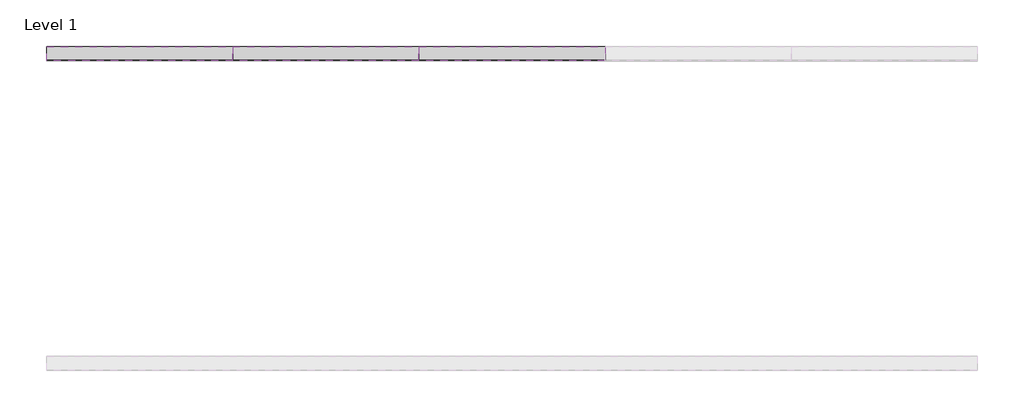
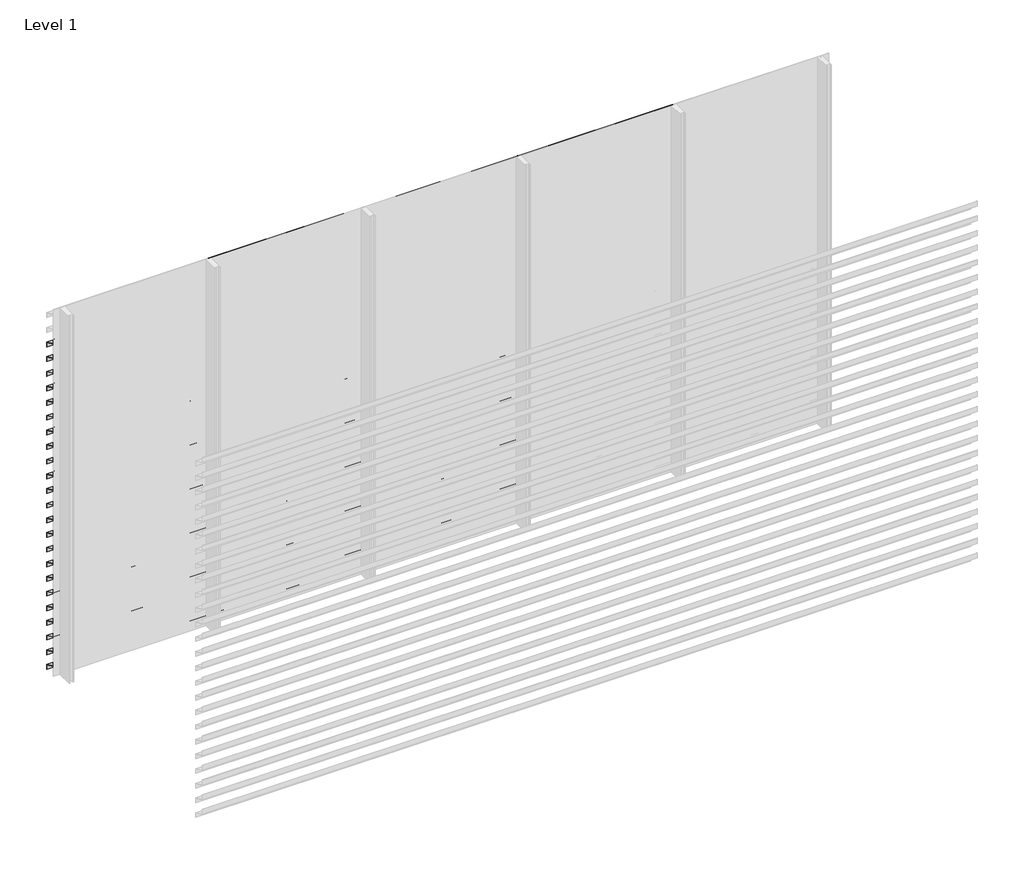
# One storey, part 10 of 46: 85 proxies.
"""IFC4 building model written with IfcOpenShell, lengths in millimetres."""

import ifcopenshell
import ifcopenshell.guid

model = None  # the IFC model being written
_history = None  # IfcOwnerHistory: only IFC2X3 demands one
_inside = {}  # id of a spatial element -> (the spatial element, [elements in it])
_under = {}  # id of a project, library or spatial element -> (it, [spatial elements below it])
_declared = {}  # id of a project -> (the project, [libraries it declares])
_typed = {}  # id of a type object -> (the type object, [elements of that type])
_made_of = {}  # id of a material, layer set ... -> (it, [elements and type objects made of it])


def new_model(schema):
    """Start an empty IFC model of exactly this schema.

    Asked for "IFC4X3", IfcOpenShell would pick the latest addendum, in which some entities
    have other attributes; the version numbers below select the first issue.
    IFC2X3 requires an IfcOwnerHistory on every rooted entity: one is made here for all.
    """
    global model, _history
    if schema == "IFC4X3":
        model = ifcopenshell.file(schema_version=(4, 3, 0, 0))
    else:
        model = ifcopenshell.file(schema=schema)
    _inside.clear()
    _under.clear()
    _declared.clear()
    _typed.clear()
    _made_of.clear()
    _history = None
    if model.schema == "IFC2X3":
        org = make("IfcOrganization", Name="unknown")
        user = make(
            "IfcPersonAndOrganization",
            ThePerson=make("IfcPerson", FamilyName="unknown"),
            TheOrganization=org,
        )
        app = make(
            "IfcApplication",
            ApplicationDeveloper=org,
            Version="unknown",
            ApplicationFullName="unknown",
            ApplicationIdentifier="unknown",
        )
        _history = make(
            "IfcOwnerHistory",
            OwningUser=user,
            OwningApplication=app,
            ChangeAction="ADDED",
            CreationDate=0,
        )
    return model


def make(cls, **values):
    """One entity of the class cls with the attributes given. An attribute that is None is left unset."""
    return model.create_entity(
        cls, **{name: value for name, value in values.items() if value is not None}
    )


def rooted(cls, **values):
    """An entity with a GlobalId (a new one), such as an element, a storey or a relation."""
    return make(cls, GlobalId=ifcopenshell.guid.new(), OwnerHistory=_history, **values)


def si_unit(unit_type, name, prefix=None):
    """IfcSIUnit, for example si_unit("LENGTHUNIT", "METRE", prefix="MILLI")."""
    return make("IfcSIUnit", UnitType=unit_type, Prefix=prefix, Name=name)


def assignment(units):
    """IfcUnitAssignment: the units of a project."""
    return None if units is None else make("IfcUnitAssignment", Units=units)


def point(xyz):
    """IfcCartesianPoint."""
    return None if xyz is None else make("IfcCartesianPoint", Coordinates=xyz)


def direction(xyz):
    """IfcDirection."""
    return None if xyz is None else make("IfcDirection", DirectionRatios=xyz)


def frame(location, z_axis=None, x_axis=None):
    """IfcAxis2Placement3D, a coordinate frame: its origin and axes. An axis left out is left unset."""
    return make(
        "IfcAxis2Placement3D",
        Location=point(location),
        Axis=direction(z_axis),
        RefDirection=direction(x_axis),
    )


def origin():
    """The frame at (0, 0, 0) with its axes left unset."""
    return frame((0.0, 0.0, 0.0))


def place(relative_to, where):
    """IfcLocalPlacement: puts the frame where relative to a parent placement (None: the world)."""
    return make(
        "IfcLocalPlacement", PlacementRelTo=relative_to, RelativePlacement=where
    )


def context(
    kind, dimensions, precision=None, world=None, true_north=None, identifier=None
):
    """IfcGeometricRepresentationContext, for example the 3D "Model" context."""
    return make(
        "IfcGeometricRepresentationContext",
        ContextIdentifier=identifier,
        ContextType=kind,
        CoordinateSpaceDimension=dimensions,
        Precision=precision,
        WorldCoordinateSystem=world,
        TrueNorth=true_north,
    )


def project(units=None, contexts=None):
    """IfcProject with its units and contexts."""
    return rooted(
        "IfcProject",
        Name="project",
        RepresentationContexts=contexts,
        UnitsInContext=assignment(units),
    )


def spatial(cls, under=None, at=None, **own):
    """A site, building, storey or space (cls), placed at a placement, below another one or the project."""
    s = rooted(cls, ObjectPlacement=at, **own)
    if under is not None:
        _under.setdefault(under.id(), (under, []))[1].append(s)
    return s


def polyline(points):
    """IfcPolyline through the points."""
    return make("IfcPolyline", Points=[point(p) for p in points])


def outline(outer, holes=None, kind="AREA"):
    """IfcArbitraryClosedProfileDef: a profile drawn as a closed curve; with holes, ...WithVoids."""
    if holes is None:
        return make("IfcArbitraryClosedProfileDef", ProfileType=kind, OuterCurve=outer)
    return make(
        "IfcArbitraryProfileDefWithVoids",
        ProfileType=kind,
        OuterCurve=outer,
        InnerCurves=holes,
    )


def extrude(swept, where, along, depth):
    """IfcExtrudedAreaSolid: the profile swept, set in the frame where, extruded along a direction by depth."""
    return make(
        "IfcExtrudedAreaSolid",
        SweptArea=swept,
        Position=where,
        ExtrudedDirection=direction(along),
        Depth=depth,
    )


def shape(context_of_items, identifier, shape_type, items):
    """IfcShapeRepresentation: the items that make up one representation, for example the "Body"."""
    return make(
        "IfcShapeRepresentation",
        ContextOfItems=context_of_items,
        RepresentationIdentifier=identifier,
        RepresentationType=shape_type,
        Items=items,
    )


def made_of(thing, what):
    """Note that an element or type object is made of a material, layer set ...; save() writes the relation."""
    if what is not None:
        _made_of.setdefault(what.id(), (what, []))[1].append(thing)
    return thing


def element(
    cls,
    number,
    at=None,
    inside=None,
    cuts=None,
    type_object=None,
    material=None,
    context=None,
    identifier="Body",
    shape_type=None,
    held_by="IfcProductDefinitionShape",
    body=None,
    shapes=None,
    **own,
):
    """One element of the class cls, such as IfcWall. Its Tag is "e" and its number.

    at: its placement. inside: the storey or other place that contains it. cuts: it is an
    opening in that element (IfcRelVoidsElement). A single representation is given by context,
    identifier, shape_type and body (its items); several are given by shapes. held_by: the class
    of the entity that holds the representations. save() writes the other relations.
    """
    e = rooted(cls, Tag="e%d" % number, ObjectPlacement=at, **own)
    if body is not None:
        shapes = [shape(context, identifier, shape_type, body)]
    if shapes is not None:
        e.Representation = make(held_by, Representations=shapes)
    if inside is not None:
        _inside.setdefault(inside.id(), (inside, []))[1].append(e)
    if cuts is not None:
        rooted(
            "IfcRelVoidsElement", RelatingBuildingElement=cuts, RelatedOpeningElement=e
        )
    if type_object is not None:
        _typed.setdefault(type_object.id(), (type_object, []))[1].append(e)
    return made_of(e, material)


def aggregate(whole, parts):
    """IfcRelAggregates: a whole, such as a stair, and the parts it consists of."""
    return rooted("IfcRelAggregates", RelatingObject=whole, RelatedObjects=parts)


def save(model, path):
    """Write the relations noted so far, then the file.

    IfcRelAggregates (storeys below a building ...), IfcRelContainedInSpatialStructure (elements
    in a storey), IfcRelDefinesByType, IfcRelAssociatesMaterial and IfcRelDeclares: one each for
    every whole, place, type object, material and project.
    """
    for whole, parts in _under.values():
        aggregate(whole, parts)
    for where, things in _inside.values():
        rooted(
            "IfcRelContainedInSpatialStructure",
            RelatedElements=things,
            RelatingStructure=where,
        )
    for kind, things in _typed.values():
        rooted("IfcRelDefinesByType", RelatedObjects=things, RelatingType=kind)
    for what, things in _made_of.values():
        rooted("IfcRelAssociatesMaterial", RelatedObjects=things, RelatingMaterial=what)
    for by, libraries in _declared.values():
        rooted("IfcRelDeclares", RelatingContext=by, RelatedDefinitions=libraries)
    model.write(path)


model = new_model("IFC4")

# Units and contexts
model_context = context("Model", 3, world=origin())
ifc_project = project(units=[si_unit("LENGTHUNIT", "METRE", prefix="MILLI")], contexts=[model_context])

# Site, building, storey
site = spatial("IfcSite", under=ifc_project)
building = spatial("IfcBuilding", under=site)
storey = spatial("IfcBuildingStorey", under=building, Name="Level 1", Elevation=0.0)

# Proxies
placement = place(None, origin())
element("IfcBuildingElementProxy", 1, Name="Wall Sweeps", at=placement, inside=storey, context=model_context, shape_type="SweptSolid", body=[
    extrude(outline(polyline([(14073.0540136, 2680.0), (14073.0540136, 2640.0), (14071.0540136, 2641.349017), (14071.0540136, 2678.7258595), (13983.0540136, 2719.7609334), (13983.0540136, 2760.0), (13985.0540136, 2760.0), (13985.0540136, 2721.0350739), (14073.0540136, 2680.0)])), frame((466.6208097, 0.0, 0.0), z_axis=(1.0, 0.0, 0.0), x_axis=(0.0, 1.0, 0.0)), (0.0, 0.0, 1.0), 1200.0000002),
])
element("IfcBuildingElementProxy", 2, Name="Wall Sweeps", at=placement, inside=storey, context=model_context, shape_type="SweptSolid", body=[
    extrude(outline(polyline([(14073.0540136, 2560.0), (14073.0540136, 2520.0), (14071.0540136, 2521.349017), (14071.0540136, 2558.7258595), (13983.0540136, 2599.7609334), (13983.0540136, 2640.0), (13985.0540136, 2640.0), (13985.0540136, 2601.0350739), (14073.0540136, 2560.0)])), frame((466.6208097, 0.0, 0.0), z_axis=(1.0, 0.0, 0.0), x_axis=(0.0, 1.0, 0.0)), (0.0, 0.0, 1.0), 1200.0000002),
])
element("IfcBuildingElementProxy", 3, Name="Wall Sweeps", at=placement, inside=storey, context=model_context, shape_type="SweptSolid", body=[
    extrude(outline(polyline([(14073.0540136, 2440.0), (14073.0540136, 2400.0), (14071.0540136, 2401.349017), (14071.0540136, 2438.7258595), (13983.0540136, 2479.7609334), (13983.0540136, 2520.0), (13985.0540136, 2520.0), (13985.0540136, 2481.0350739), (14073.0540136, 2440.0)])), frame((466.6208097, 0.0, 0.0), z_axis=(1.0, 0.0, 0.0), x_axis=(0.0, 1.0, 0.0)), (0.0, 0.0, 1.0), 1200.0000002),
])
element("IfcBuildingElementProxy", 4, Name="Wall Sweeps", at=placement, inside=storey, context=model_context, shape_type="SweptSolid", body=[
    extrude(outline(polyline([(14073.0540136, 2320.0), (14073.0540136, 2280.0), (14071.0540136, 2281.349017), (14071.0540136, 2318.7258595), (13983.0540136, 2359.7609334), (13983.0540136, 2400.0), (13985.0540136, 2400.0), (13985.0540136, 2361.0350739), (14073.0540136, 2320.0)])), frame((466.6208097, 0.0, 0.0), z_axis=(1.0, 0.0, 0.0), x_axis=(0.0, 1.0, 0.0)), (0.0, 0.0, 1.0), 1200.0000002),
])
element("IfcBuildingElementProxy", 5, Name="Wall Sweeps", at=placement, inside=storey, context=model_context, shape_type="SweptSolid", body=[
    extrude(outline(polyline([(14073.0540136, 2200.0), (14073.0540136, 2160.0), (14071.0540136, 2161.349017), (14071.0540136, 2198.7258595), (13983.0540136, 2239.7609334), (13983.0540136, 2280.0), (13985.0540136, 2280.0), (13985.0540136, 2241.0350739), (14073.0540136, 2200.0)])), frame((466.6208097, 0.0, 0.0), z_axis=(1.0, 0.0, 0.0), x_axis=(0.0, 1.0, 0.0)), (0.0, 0.0, 1.0), 1200.0000002),
])
element("IfcBuildingElementProxy", 6, Name="Wall Sweeps", at=placement, inside=storey, context=model_context, shape_type="SweptSolid", body=[
    extrude(outline(polyline([(14073.0540136, 2080.0), (14073.0540136, 2040.0), (14071.0540136, 2041.349017), (14071.0540136, 2078.7258595), (13983.0540136, 2119.7609334), (13983.0540136, 2160.0), (13985.0540136, 2160.0), (13985.0540136, 2121.0350739), (14073.0540136, 2080.0)])), frame((466.6208097, 0.0, 0.0), z_axis=(1.0, 0.0, 0.0), x_axis=(0.0, 1.0, 0.0)), (0.0, 0.0, 1.0), 1200.0000002),
])
element("IfcBuildingElementProxy", 7, Name="Wall Sweeps", at=placement, inside=storey, context=model_context, shape_type="SweptSolid", body=[
    extrude(outline(polyline([(14073.0540136, 1960.0), (14073.0540136, 1920.0), (14071.0540136, 1921.349017), (14071.0540136, 1958.7258595), (13983.0540136, 1999.7609334), (13983.0540136, 2040.0), (13985.0540136, 2040.0), (13985.0540136, 2001.0350739), (14073.0540136, 1960.0)])), frame((466.6208097, 0.0, 0.0), z_axis=(1.0, 0.0, 0.0), x_axis=(0.0, 1.0, 0.0)), (0.0, 0.0, 1.0), 1200.0000002),
])
element("IfcBuildingElementProxy", 8, Name="Wall Sweeps", at=placement, inside=storey, context=model_context, shape_type="SweptSolid", body=[
    extrude(outline(polyline([(14073.0540136, 1840.0), (14073.0540136, 1800.0), (14071.0540136, 1801.349017), (14071.0540136, 1838.7258595), (13983.0540136, 1879.7609334), (13983.0540136, 1920.0), (13985.0540136, 1920.0), (13985.0540136, 1881.0350739), (14073.0540136, 1840.0)])), frame((466.6208097, 0.0, 0.0), z_axis=(1.0, 0.0, 0.0), x_axis=(0.0, 1.0, 0.0)), (0.0, 0.0, 1.0), 1200.0000002),
])
element("IfcBuildingElementProxy", 9, Name="Wall Sweeps", at=placement, inside=storey, context=model_context, shape_type="SweptSolid", body=[
    extrude(outline(polyline([(14073.0540136, 1720.0), (14073.0540136, 1680.0), (14071.0540136, 1681.349017), (14071.0540136, 1718.7258595), (13983.0540136, 1759.7609334), (13983.0540136, 1800.0), (13985.0540136, 1800.0), (13985.0540136, 1761.0350739), (14073.0540136, 1720.0)])), frame((466.6208097, 0.0, 0.0), z_axis=(1.0, 0.0, 0.0), x_axis=(0.0, 1.0, 0.0)), (0.0, 0.0, 1.0), 1200.0000002),
])
element("IfcBuildingElementProxy", 10, Name="Wall Sweeps", at=placement, inside=storey, context=model_context, shape_type="SweptSolid", body=[
    extrude(outline(polyline([(14073.0540136, 1600.0), (14073.0540136, 1560.0), (14071.0540136, 1561.349017), (14071.0540136, 1598.7258595), (13983.0540136, 1639.7609334), (13983.0540136, 1680.0), (13985.0540136, 1680.0), (13985.0540136, 1641.0350739), (14073.0540136, 1600.0)])), frame((466.6208097, 0.0, 0.0), z_axis=(1.0, 0.0, 0.0), x_axis=(0.0, 1.0, 0.0)), (0.0, 0.0, 1.0), 1200.0000002),
])
element("IfcBuildingElementProxy", 11, Name="Wall Sweeps", at=placement, inside=storey, context=model_context, shape_type="SweptSolid", body=[
    extrude(outline(polyline([(14073.0540136, 1480.0), (14073.0540136, 1440.0), (14071.0540136, 1441.349017), (14071.0540136, 1478.7258595), (13983.0540136, 1519.7609334), (13983.0540136, 1560.0), (13985.0540136, 1560.0), (13985.0540136, 1521.0350739), (14073.0540136, 1480.0)])), frame((466.6208097, 0.0, 0.0), z_axis=(1.0, 0.0, 0.0), x_axis=(0.0, 1.0, 0.0)), (0.0, 0.0, 1.0), 1200.0000002),
])
element("IfcBuildingElementProxy", 12, Name="Wall Sweeps", at=placement, inside=storey, context=model_context, shape_type="SweptSolid", body=[
    extrude(outline(polyline([(14073.0540136, 1360.0), (14073.0540136, 1320.0), (14071.0540136, 1321.349017), (14071.0540136, 1358.7258595), (13983.0540136, 1399.7609334), (13983.0540136, 1440.0), (13985.0540136, 1440.0), (13985.0540136, 1401.0350739), (14073.0540136, 1360.0)])), frame((466.6208097, 0.0, 0.0), z_axis=(1.0, 0.0, 0.0), x_axis=(0.0, 1.0, 0.0)), (0.0, 0.0, 1.0), 1200.0000002),
])
element("IfcBuildingElementProxy", 13, Name="Wall Sweeps", at=placement, inside=storey, context=model_context, shape_type="SweptSolid", body=[
    extrude(outline(polyline([(14073.0540136, 1240.0), (14073.0540136, 1200.0), (14071.0540136, 1201.349017), (14071.0540136, 1238.7258595), (13983.0540136, 1279.7609334), (13983.0540136, 1320.0), (13985.0540136, 1320.0), (13985.0540136, 1281.0350739), (14073.0540136, 1240.0)])), frame((466.6208097, 0.0, 0.0), z_axis=(1.0, 0.0, 0.0), x_axis=(0.0, 1.0, 0.0)), (0.0, 0.0, 1.0), 1200.0000002),
])
element("IfcBuildingElementProxy", 14, Name="Wall Sweeps", at=placement, inside=storey, context=model_context, shape_type="SweptSolid", body=[
    extrude(outline(polyline([(14073.0540136, 1120.0), (14073.0540136, 1080.0), (14071.0540136, 1081.349017), (14071.0540136, 1118.7258595), (13983.0540136, 1159.7609334), (13983.0540136, 1200.0), (13985.0540136, 1200.0), (13985.0540136, 1161.0350739), (14073.0540136, 1120.0)])), frame((466.6208097, 0.0, 0.0), z_axis=(1.0, 0.0, 0.0), x_axis=(0.0, 1.0, 0.0)), (0.0, 0.0, 1.0), 1200.0000002),
])
element("IfcBuildingElementProxy", 15, Name="Wall Sweeps", at=placement, inside=storey, context=model_context, shape_type="SweptSolid", body=[
    extrude(outline(polyline([(14073.0540136, 1000.0), (14073.0540136, 960.0), (14071.0540136, 961.349017), (14071.0540136, 998.7258595), (13983.0540136, 1039.7609334), (13983.0540136, 1080.0), (13985.0540136, 1080.0), (13985.0540136, 1041.0350739), (14073.0540136, 1000.0)])), frame((466.6208097, 0.0, 0.0), z_axis=(1.0, 0.0, 0.0), x_axis=(0.0, 1.0, 0.0)), (0.0, 0.0, 1.0), 1200.0000002),
])
element("IfcBuildingElementProxy", 16, Name="Wall Sweeps", at=placement, inside=storey, context=model_context, shape_type="SweptSolid", body=[
    extrude(outline(polyline([(14073.0540136, 880.0), (14073.0540136, 840.0), (14071.0540136, 841.349017), (14071.0540136, 878.7258595), (13983.0540136, 919.7609334), (13983.0540136, 960.0), (13985.0540136, 960.0), (13985.0540136, 921.0350739), (14073.0540136, 880.0)])), frame((466.6208097, 0.0, 0.0), z_axis=(1.0, 0.0, 0.0), x_axis=(0.0, 1.0, 0.0)), (0.0, 0.0, 1.0), 1200.0000002),
])
element("IfcBuildingElementProxy", 17, Name="Wall Sweeps", at=placement, inside=storey, context=model_context, shape_type="SweptSolid", body=[
    extrude(outline(polyline([(14073.0540136, 760.0), (14073.0540136, 720.0), (14071.0540136, 721.349017), (14071.0540136, 758.7258595), (13983.0540136, 799.7609334), (13983.0540136, 840.0), (13985.0540136, 840.0), (13985.0540136, 801.0350739), (14073.0540136, 760.0)])), frame((466.6208097, 0.0, 0.0), z_axis=(1.0, 0.0, 0.0), x_axis=(0.0, 1.0, 0.0)), (0.0, 0.0, 1.0), 1200.0000002),
])
element("IfcBuildingElementProxy", 18, Name="Wall Sweeps", at=placement, inside=storey, context=model_context, shape_type="SweptSolid", body=[
    extrude(outline(polyline([(14073.0540136, 640.0), (14073.0540136, 600.0), (14071.0540136, 601.349017), (14071.0540136, 638.7258595), (13983.0540136, 679.7609334), (13983.0540136, 720.0), (13985.0540136, 720.0), (13985.0540136, 681.0350739), (14073.0540136, 640.0)])), frame((466.6208097, 0.0, 0.0), z_axis=(1.0, 0.0, 0.0), x_axis=(0.0, 1.0, 0.0)), (0.0, 0.0, 1.0), 1200.0000002),
])
element("IfcBuildingElementProxy", 19, Name="Wall Sweeps", at=placement, inside=storey, context=model_context, shape_type="SweptSolid", body=[
    extrude(outline(polyline([(14073.0540136, 520.0), (14073.0540136, 480.0), (14071.0540136, 481.349017), (14071.0540136, 518.7258595), (13983.0540136, 559.7609334), (13983.0540136, 600.0), (13985.0540136, 600.0), (13985.0540136, 561.0350739), (14073.0540136, 520.0)])), frame((466.6208097, 0.0, 0.0), z_axis=(1.0, 0.0, 0.0), x_axis=(0.0, 1.0, 0.0)), (0.0, 0.0, 1.0), 1200.0000002),
])
element("IfcBuildingElementProxy", 20, Name="Wall Sweeps", at=placement, inside=storey, context=model_context, shape_type="SweptSolid", body=[
    extrude(outline(polyline([(14073.0540136, 400.0), (14073.0540136, 360.0), (14071.0540136, 361.349017), (14071.0540136, 398.7258595), (13983.0540136, 439.7609334), (13983.0540136, 480.0), (13985.0540136, 480.0), (13985.0540136, 441.0350739), (14073.0540136, 400.0)])), frame((466.6208097, 0.0, 0.0), z_axis=(1.0, 0.0, 0.0), x_axis=(0.0, 1.0, 0.0)), (0.0, 0.0, 1.0), 1200.0000002),
])
element("IfcBuildingElementProxy", 21, Name="Wall Sweeps", at=placement, inside=storey, context=model_context, shape_type="SweptSolid", body=[
    extrude(outline(polyline([(14073.0540136, 280.0), (14073.0540136, 240.0), (14071.0540136, 241.349017), (14071.0540136, 278.7258595), (13983.0540136, 319.7609334), (13983.0540136, 360.0), (13985.0540136, 360.0), (13985.0540136, 321.0350739), (14073.0540136, 280.0)])), frame((466.6208097, 0.0, 0.0), z_axis=(1.0, 0.0, 0.0), x_axis=(0.0, 1.0, 0.0)), (0.0, 0.0, 1.0), 1200.0000002),
])
element("IfcBuildingElementProxy", 22, Name="Wall Sweeps", at=placement, inside=storey, context=model_context, shape_type="SweptSolid", body=[
    extrude(outline(polyline([(14073.0540136, 160.0), (14073.0540136, 120.0), (14071.0540136, 121.349017), (14071.0540136, 158.7258595), (13983.0540136, 199.7609334), (13983.0540136, 240.0), (13985.0540136, 240.0), (13985.0540136, 201.0350739), (14073.0540136, 160.0)])), frame((466.6208097, 0.0, 0.0), z_axis=(1.0, 0.0, 0.0), x_axis=(0.0, 1.0, 0.0)), (0.0, 0.0, 1.0), 1200.0000002),
])
element("IfcBuildingElementProxy", 23, Name="Wall Sweeps", at=placement, inside=storey, context=model_context, shape_type="SweptSolid", body=[
    extrude(outline(polyline([(14073.0540136, 40.0), (14073.0540136, 0.0), (14071.0540136, 1.349017), (14071.0540136, 38.7258595), (13983.0540136, 79.7609334), (13983.0540136, 120.0), (13985.0540136, 120.0), (13985.0540136, 81.0350739), (14073.0540136, 40.0)])), frame((466.6208097, 0.0, 0.0), z_axis=(1.0, 0.0, 0.0), x_axis=(0.0, 1.0, 0.0)), (0.0, 0.0, 1.0), 1200.0000002),
])
element("IfcBuildingElementProxy", 24, Name="Wall Sweeps", at=placement, inside=storey, context=model_context, shape_type="SweptSolid", body=[
    extrude(outline(polyline([(14073.0540136, 2920.0), (14073.0540136, 2880.0), (14071.0540136, 2881.349017), (14071.0540136, 2918.7258595), (13983.0540136, 2959.7609334), (13983.0540136, 3000.0), (13985.0540136, 3000.0), (13985.0540136, 2961.0350739), (14073.0540136, 2920.0)])), frame((1666.6208099, 0.0, 0.0), z_axis=(1.0, 0.0, 0.0), x_axis=(0.0, 1.0, 0.0)), (0.0, 0.0, 1.0), 1199.9999999),
])
element("IfcBuildingElementProxy", 25, Name="Wall Sweeps", at=placement, inside=storey, context=model_context, shape_type="SweptSolid", body=[
    extrude(outline(polyline([(14073.0540136, 2800.0), (14073.0540136, 2760.0), (14071.0540136, 2761.349017), (14071.0540136, 2798.7258595), (13983.0540136, 2839.7609334), (13983.0540136, 2880.0), (13985.0540136, 2880.0), (13985.0540136, 2841.0350739), (14073.0540136, 2800.0)])), frame((1666.6208099, 0.0, 0.0), z_axis=(1.0, 0.0, 0.0), x_axis=(0.0, 1.0, 0.0)), (0.0, 0.0, 1.0), 1199.9999999),
])
element("IfcBuildingElementProxy", 26, Name="Wall Sweeps", at=placement, inside=storey, context=model_context, shape_type="SweptSolid", body=[
    extrude(outline(polyline([(14073.0540136, 2680.0), (14073.0540136, 2640.0), (14071.0540136, 2641.349017), (14071.0540136, 2678.7258595), (13983.0540136, 2719.7609334), (13983.0540136, 2760.0), (13985.0540136, 2760.0), (13985.0540136, 2721.0350739), (14073.0540136, 2680.0)])), frame((1666.6208099, 0.0, 0.0), z_axis=(1.0, 0.0, 0.0), x_axis=(0.0, 1.0, 0.0)), (0.0, 0.0, 1.0), 1199.9999999),
])
element("IfcBuildingElementProxy", 27, Name="Wall Sweeps", at=placement, inside=storey, context=model_context, shape_type="SweptSolid", body=[
    extrude(outline(polyline([(14073.0540136, 2560.0), (14073.0540136, 2520.0), (14071.0540136, 2521.349017), (14071.0540136, 2558.7258595), (13983.0540136, 2599.7609334), (13983.0540136, 2640.0), (13985.0540136, 2640.0), (13985.0540136, 2601.0350739), (14073.0540136, 2560.0)])), frame((1666.6208099, 0.0, 0.0), z_axis=(1.0, 0.0, 0.0), x_axis=(0.0, 1.0, 0.0)), (0.0, 0.0, 1.0), 1199.9999999),
])
element("IfcBuildingElementProxy", 28, Name="Wall Sweeps", at=placement, inside=storey, context=model_context, shape_type="SweptSolid", body=[
    extrude(outline(polyline([(14073.0540136, 2440.0), (14073.0540136, 2400.0), (14071.0540136, 2401.349017), (14071.0540136, 2438.7258595), (13983.0540136, 2479.7609334), (13983.0540136, 2520.0), (13985.0540136, 2520.0), (13985.0540136, 2481.0350739), (14073.0540136, 2440.0)])), frame((1666.6208099, 0.0, 0.0), z_axis=(1.0, 0.0, 0.0), x_axis=(0.0, 1.0, 0.0)), (0.0, 0.0, 1.0), 1199.9999999),
])
element("IfcBuildingElementProxy", 29, Name="Wall Sweeps", at=placement, inside=storey, context=model_context, shape_type="SweptSolid", body=[
    extrude(outline(polyline([(14073.0540136, 2320.0), (14073.0540136, 2280.0), (14071.0540136, 2281.349017), (14071.0540136, 2318.7258595), (13983.0540136, 2359.7609334), (13983.0540136, 2400.0), (13985.0540136, 2400.0), (13985.0540136, 2361.0350739), (14073.0540136, 2320.0)])), frame((1666.6208099, 0.0, 0.0), z_axis=(1.0, 0.0, 0.0), x_axis=(0.0, 1.0, 0.0)), (0.0, 0.0, 1.0), 1199.9999999),
])
element("IfcBuildingElementProxy", 30, Name="Wall Sweeps", at=placement, inside=storey, context=model_context, shape_type="SweptSolid", body=[
    extrude(outline(polyline([(14073.0540136, 2200.0), (14073.0540136, 2160.0), (14071.0540136, 2161.349017), (14071.0540136, 2198.7258595), (13983.0540136, 2239.7609334), (13983.0540136, 2280.0), (13985.0540136, 2280.0), (13985.0540136, 2241.0350739), (14073.0540136, 2200.0)])), frame((1666.6208099, 0.0, 0.0), z_axis=(1.0, 0.0, 0.0), x_axis=(0.0, 1.0, 0.0)), (0.0, 0.0, 1.0), 1199.9999999),
])
element("IfcBuildingElementProxy", 31, Name="Wall Sweeps", at=placement, inside=storey, context=model_context, shape_type="SweptSolid", body=[
    extrude(outline(polyline([(14073.0540136, 2080.0), (14073.0540136, 2040.0), (14071.0540136, 2041.349017), (14071.0540136, 2078.7258595), (13983.0540136, 2119.7609334), (13983.0540136, 2160.0), (13985.0540136, 2160.0), (13985.0540136, 2121.0350739), (14073.0540136, 2080.0)])), frame((1666.6208099, 0.0, 0.0), z_axis=(1.0, 0.0, 0.0), x_axis=(0.0, 1.0, 0.0)), (0.0, 0.0, 1.0), 1199.9999999),
])
element("IfcBuildingElementProxy", 32, Name="Wall Sweeps", at=placement, inside=storey, context=model_context, shape_type="SweptSolid", body=[
    extrude(outline(polyline([(14073.0540136, 1960.0), (14073.0540136, 1920.0), (14071.0540136, 1921.349017), (14071.0540136, 1958.7258595), (13983.0540136, 1999.7609334), (13983.0540136, 2040.0), (13985.0540136, 2040.0), (13985.0540136, 2001.0350739), (14073.0540136, 1960.0)])), frame((1666.6208099, 0.0, 0.0), z_axis=(1.0, 0.0, 0.0), x_axis=(0.0, 1.0, 0.0)), (0.0, 0.0, 1.0), 1199.9999999),
])
element("IfcBuildingElementProxy", 33, Name="Wall Sweeps", at=placement, inside=storey, context=model_context, shape_type="SweptSolid", body=[
    extrude(outline(polyline([(14073.0540136, 1840.0), (14073.0540136, 1800.0), (14071.0540136, 1801.349017), (14071.0540136, 1838.7258595), (13983.0540136, 1879.7609334), (13983.0540136, 1920.0), (13985.0540136, 1920.0), (13985.0540136, 1881.0350739), (14073.0540136, 1840.0)])), frame((1666.6208099, 0.0, 0.0), z_axis=(1.0, 0.0, 0.0), x_axis=(0.0, 1.0, 0.0)), (0.0, 0.0, 1.0), 1199.9999999),
])
element("IfcBuildingElementProxy", 34, Name="Wall Sweeps", at=placement, inside=storey, context=model_context, shape_type="SweptSolid", body=[
    extrude(outline(polyline([(14073.0540136, 1720.0), (14073.0540136, 1680.0), (14071.0540136, 1681.349017), (14071.0540136, 1718.7258595), (13983.0540136, 1759.7609334), (13983.0540136, 1800.0), (13985.0540136, 1800.0), (13985.0540136, 1761.0350739), (14073.0540136, 1720.0)])), frame((1666.6208099, 0.0, 0.0), z_axis=(1.0, 0.0, 0.0), x_axis=(0.0, 1.0, 0.0)), (0.0, 0.0, 1.0), 1199.9999999),
])
element("IfcBuildingElementProxy", 35, Name="Wall Sweeps", at=placement, inside=storey, context=model_context, shape_type="SweptSolid", body=[
    extrude(outline(polyline([(14073.0540136, 1600.0), (14073.0540136, 1560.0), (14071.0540136, 1561.349017), (14071.0540136, 1598.7258595), (13983.0540136, 1639.7609334), (13983.0540136, 1680.0), (13985.0540136, 1680.0), (13985.0540136, 1641.0350739), (14073.0540136, 1600.0)])), frame((1666.6208099, 0.0, 0.0), z_axis=(1.0, 0.0, 0.0), x_axis=(0.0, 1.0, 0.0)), (0.0, 0.0, 1.0), 1199.9999999),
])
element("IfcBuildingElementProxy", 36, Name="Wall Sweeps", at=placement, inside=storey, context=model_context, shape_type="SweptSolid", body=[
    extrude(outline(polyline([(14073.0540136, 1480.0), (14073.0540136, 1440.0), (14071.0540136, 1441.349017), (14071.0540136, 1478.7258595), (13983.0540136, 1519.7609334), (13983.0540136, 1560.0), (13985.0540136, 1560.0), (13985.0540136, 1521.0350739), (14073.0540136, 1480.0)])), frame((1666.6208099, 0.0, 0.0), z_axis=(1.0, 0.0, 0.0), x_axis=(0.0, 1.0, 0.0)), (0.0, 0.0, 1.0), 1199.9999999),
])
element("IfcBuildingElementProxy", 37, Name="Wall Sweeps", at=placement, inside=storey, context=model_context, shape_type="SweptSolid", body=[
    extrude(outline(polyline([(14073.0540136, 1360.0), (14073.0540136, 1320.0), (14071.0540136, 1321.349017), (14071.0540136, 1358.7258595), (13983.0540136, 1399.7609334), (13983.0540136, 1440.0), (13985.0540136, 1440.0), (13985.0540136, 1401.0350739), (14073.0540136, 1360.0)])), frame((1666.6208099, 0.0, 0.0), z_axis=(1.0, 0.0, 0.0), x_axis=(0.0, 1.0, 0.0)), (0.0, 0.0, 1.0), 1199.9999999),
])
element("IfcBuildingElementProxy", 38, Name="Wall Sweeps", at=placement, inside=storey, context=model_context, shape_type="SweptSolid", body=[
    extrude(outline(polyline([(14073.0540136, 1240.0), (14073.0540136, 1200.0), (14071.0540136, 1201.349017), (14071.0540136, 1238.7258595), (13983.0540136, 1279.7609334), (13983.0540136, 1320.0), (13985.0540136, 1320.0), (13985.0540136, 1281.0350739), (14073.0540136, 1240.0)])), frame((1666.6208099, 0.0, 0.0), z_axis=(1.0, 0.0, 0.0), x_axis=(0.0, 1.0, 0.0)), (0.0, 0.0, 1.0), 1199.9999999),
])
element("IfcBuildingElementProxy", 39, Name="Wall Sweeps", at=placement, inside=storey, context=model_context, shape_type="SweptSolid", body=[
    extrude(outline(polyline([(14073.0540136, 1120.0), (14073.0540136, 1080.0), (14071.0540136, 1081.349017), (14071.0540136, 1118.7258595), (13983.0540136, 1159.7609334), (13983.0540136, 1200.0), (13985.0540136, 1200.0), (13985.0540136, 1161.0350739), (14073.0540136, 1120.0)])), frame((1666.6208099, 0.0, 0.0), z_axis=(1.0, 0.0, 0.0), x_axis=(0.0, 1.0, 0.0)), (0.0, 0.0, 1.0), 1199.9999999),
])
element("IfcBuildingElementProxy", 40, Name="Wall Sweeps", at=placement, inside=storey, context=model_context, shape_type="SweptSolid", body=[
    extrude(outline(polyline([(14073.0540136, 1000.0), (14073.0540136, 960.0), (14071.0540136, 961.349017), (14071.0540136, 998.7258595), (13983.0540136, 1039.7609334), (13983.0540136, 1080.0), (13985.0540136, 1080.0), (13985.0540136, 1041.0350739), (14073.0540136, 1000.0)])), frame((1666.6208099, 0.0, 0.0), z_axis=(1.0, 0.0, 0.0), x_axis=(0.0, 1.0, 0.0)), (0.0, 0.0, 1.0), 1199.9999999),
])
element("IfcBuildingElementProxy", 41, Name="Wall Sweeps", at=placement, inside=storey, context=model_context, shape_type="SweptSolid", body=[
    extrude(outline(polyline([(14073.0540136, 880.0), (14073.0540136, 840.0), (14071.0540136, 841.349017), (14071.0540136, 878.7258595), (13983.0540136, 919.7609334), (13983.0540136, 960.0), (13985.0540136, 960.0), (13985.0540136, 921.0350739), (14073.0540136, 880.0)])), frame((1666.6208099, 0.0, 0.0), z_axis=(1.0, 0.0, 0.0), x_axis=(0.0, 1.0, 0.0)), (0.0, 0.0, 1.0), 1199.9999999),
])
element("IfcBuildingElementProxy", 42, Name="Wall Sweeps", at=placement, inside=storey, context=model_context, shape_type="SweptSolid", body=[
    extrude(outline(polyline([(14073.0540136, 760.0), (14073.0540136, 720.0), (14071.0540136, 721.349017), (14071.0540136, 758.7258595), (13983.0540136, 799.7609334), (13983.0540136, 840.0), (13985.0540136, 840.0), (13985.0540136, 801.0350739), (14073.0540136, 760.0)])), frame((1666.6208099, 0.0, 0.0), z_axis=(1.0, 0.0, 0.0), x_axis=(0.0, 1.0, 0.0)), (0.0, 0.0, 1.0), 1199.9999999),
])
element("IfcBuildingElementProxy", 43, Name="Wall Sweeps", at=placement, inside=storey, context=model_context, shape_type="SweptSolid", body=[
    extrude(outline(polyline([(14073.0540136, 640.0), (14073.0540136, 600.0), (14071.0540136, 601.349017), (14071.0540136, 638.7258595), (13983.0540136, 679.7609334), (13983.0540136, 720.0), (13985.0540136, 720.0), (13985.0540136, 681.0350739), (14073.0540136, 640.0)])), frame((1666.6208099, 0.0, 0.0), z_axis=(1.0, 0.0, 0.0), x_axis=(0.0, 1.0, 0.0)), (0.0, 0.0, 1.0), 1199.9999999),
])
element("IfcBuildingElementProxy", 44, Name="Wall Sweeps", at=placement, inside=storey, context=model_context, shape_type="SweptSolid", body=[
    extrude(outline(polyline([(14073.0540136, 520.0), (14073.0540136, 480.0), (14071.0540136, 481.349017), (14071.0540136, 518.7258595), (13983.0540136, 559.7609334), (13983.0540136, 600.0), (13985.0540136, 600.0), (13985.0540136, 561.0350739), (14073.0540136, 520.0)])), frame((1666.6208099, 0.0, 0.0), z_axis=(1.0, 0.0, 0.0), x_axis=(0.0, 1.0, 0.0)), (0.0, 0.0, 1.0), 1199.9999999),
])
element("IfcBuildingElementProxy", 45, Name="Wall Sweeps", at=placement, inside=storey, context=model_context, shape_type="SweptSolid", body=[
    extrude(outline(polyline([(14073.0540136, 400.0), (14073.0540136, 360.0), (14071.0540136, 361.349017), (14071.0540136, 398.7258595), (13983.0540136, 439.7609334), (13983.0540136, 480.0), (13985.0540136, 480.0), (13985.0540136, 441.0350739), (14073.0540136, 400.0)])), frame((1666.6208099, 0.0, 0.0), z_axis=(1.0, 0.0, 0.0), x_axis=(0.0, 1.0, 0.0)), (0.0, 0.0, 1.0), 1199.9999999),
])
element("IfcBuildingElementProxy", 46, Name="Wall Sweeps", at=placement, inside=storey, context=model_context, shape_type="SweptSolid", body=[
    extrude(outline(polyline([(14073.0540136, 280.0), (14073.0540136, 240.0), (14071.0540136, 241.349017), (14071.0540136, 278.7258595), (13983.0540136, 319.7609334), (13983.0540136, 360.0), (13985.0540136, 360.0), (13985.0540136, 321.0350739), (14073.0540136, 280.0)])), frame((1666.6208099, 0.0, 0.0), z_axis=(1.0, 0.0, 0.0), x_axis=(0.0, 1.0, 0.0)), (0.0, 0.0, 1.0), 1199.9999999),
])
element("IfcBuildingElementProxy", 47, Name="Wall Sweeps", at=placement, inside=storey, context=model_context, shape_type="SweptSolid", body=[
    extrude(outline(polyline([(14073.0540136, 160.0), (14073.0540136, 120.0), (14071.0540136, 121.349017), (14071.0540136, 158.7258595), (13983.0540136, 199.7609334), (13983.0540136, 240.0), (13985.0540136, 240.0), (13985.0540136, 201.0350739), (14073.0540136, 160.0)])), frame((1666.6208099, 0.0, 0.0), z_axis=(1.0, 0.0, 0.0), x_axis=(0.0, 1.0, 0.0)), (0.0, 0.0, 1.0), 1199.9999999),
])
element("IfcBuildingElementProxy", 48, Name="Wall Sweeps", at=placement, inside=storey, context=model_context, shape_type="SweptSolid", body=[
    extrude(outline(polyline([(14073.0540136, 40.0), (14073.0540136, 0.0), (14071.0540136, 1.349017), (14071.0540136, 38.7258595), (13983.0540136, 79.7609334), (13983.0540136, 120.0), (13985.0540136, 120.0), (13985.0540136, 81.0350739), (14073.0540136, 40.0)])), frame((1666.6208099, 0.0, 0.0), z_axis=(1.0, 0.0, 0.0), x_axis=(0.0, 1.0, 0.0)), (0.0, 0.0, 1.0), 1199.9999999),
])
element("IfcBuildingElementProxy", 49, Name="Wall Sweeps", at=placement, inside=storey, context=model_context, shape_type="SweptSolid", body=[
    extrude(outline(polyline([(14073.0540136, 2920.0), (14073.0540136, 2880.0), (14071.0540136, 2881.349017), (14071.0540136, 2918.7258595), (13983.0540136, 2959.7609334), (13983.0540136, 3000.0), (13985.0540136, 3000.0), (13985.0540136, 2961.0350739), (14073.0540136, 2920.0)])), frame((2866.6208097, 0.0, 0.0), z_axis=(1.0, 0.0, 0.0), x_axis=(0.0, 1.0, 0.0)), (0.0, 0.0, 1.0), 1199.9999999),
])
element("IfcBuildingElementProxy", 50, Name="Wall Sweeps", at=placement, inside=storey, context=model_context, shape_type="SweptSolid", body=[
    extrude(outline(polyline([(14073.0540136, 2800.0), (14073.0540136, 2760.0), (14071.0540136, 2761.349017), (14071.0540136, 2798.7258595), (13983.0540136, 2839.7609334), (13983.0540136, 2880.0), (13985.0540136, 2880.0), (13985.0540136, 2841.0350739), (14073.0540136, 2800.0)])), frame((2866.6208097, 0.0, 0.0), z_axis=(1.0, 0.0, 0.0), x_axis=(0.0, 1.0, 0.0)), (0.0, 0.0, 1.0), 1199.9999999),
])
element("IfcBuildingElementProxy", 51, Name="Wall Sweeps", at=placement, inside=storey, context=model_context, shape_type="SweptSolid", body=[
    extrude(outline(polyline([(14073.0540136, 2680.0), (14073.0540136, 2640.0), (14071.0540136, 2641.349017), (14071.0540136, 2678.7258595), (13983.0540136, 2719.7609334), (13983.0540136, 2760.0), (13985.0540136, 2760.0), (13985.0540136, 2721.0350739), (14073.0540136, 2680.0)])), frame((2866.6208097, 0.0, 0.0), z_axis=(1.0, 0.0, 0.0), x_axis=(0.0, 1.0, 0.0)), (0.0, 0.0, 1.0), 1199.9999999),
])
element("IfcBuildingElementProxy", 52, Name="Wall Sweeps", at=placement, inside=storey, context=model_context, shape_type="SweptSolid", body=[
    extrude(outline(polyline([(14073.0540136, 2560.0), (14073.0540136, 2520.0), (14071.0540136, 2521.349017), (14071.0540136, 2558.7258595), (13983.0540136, 2599.7609334), (13983.0540136, 2640.0), (13985.0540136, 2640.0), (13985.0540136, 2601.0350739), (14073.0540136, 2560.0)])), frame((2866.6208097, 0.0, 0.0), z_axis=(1.0, 0.0, 0.0), x_axis=(0.0, 1.0, 0.0)), (0.0, 0.0, 1.0), 1199.9999999),
])
element("IfcBuildingElementProxy", 53, Name="Wall Sweeps", at=placement, inside=storey, context=model_context, shape_type="SweptSolid", body=[
    extrude(outline(polyline([(14073.0540136, 2440.0), (14073.0540136, 2400.0), (14071.0540136, 2401.349017), (14071.0540136, 2438.7258595), (13983.0540136, 2479.7609334), (13983.0540136, 2520.0), (13985.0540136, 2520.0), (13985.0540136, 2481.0350739), (14073.0540136, 2440.0)])), frame((2866.6208097, 0.0, 0.0), z_axis=(1.0, 0.0, 0.0), x_axis=(0.0, 1.0, 0.0)), (0.0, 0.0, 1.0), 1199.9999999),
])
element("IfcBuildingElementProxy", 54, Name="Wall Sweeps", at=placement, inside=storey, context=model_context, shape_type="SweptSolid", body=[
    extrude(outline(polyline([(14073.0540136, 2320.0), (14073.0540136, 2280.0), (14071.0540136, 2281.349017), (14071.0540136, 2318.7258595), (13983.0540136, 2359.7609334), (13983.0540136, 2400.0), (13985.0540136, 2400.0), (13985.0540136, 2361.0350739), (14073.0540136, 2320.0)])), frame((2866.6208097, 0.0, 0.0), z_axis=(1.0, 0.0, 0.0), x_axis=(0.0, 1.0, 0.0)), (0.0, 0.0, 1.0), 1199.9999999),
])
element("IfcBuildingElementProxy", 55, Name="Wall Sweeps", at=placement, inside=storey, context=model_context, shape_type="SweptSolid", body=[
    extrude(outline(polyline([(14073.0540136, 2200.0), (14073.0540136, 2160.0), (14071.0540136, 2161.349017), (14071.0540136, 2198.7258595), (13983.0540136, 2239.7609334), (13983.0540136, 2280.0), (13985.0540136, 2280.0), (13985.0540136, 2241.0350739), (14073.0540136, 2200.0)])), frame((2866.6208097, 0.0, 0.0), z_axis=(1.0, 0.0, 0.0), x_axis=(0.0, 1.0, 0.0)), (0.0, 0.0, 1.0), 1199.9999999),
])
element("IfcBuildingElementProxy", 56, Name="Wall Sweeps", at=placement, inside=storey, context=model_context, shape_type="SweptSolid", body=[
    extrude(outline(polyline([(14073.0540136, 2080.0), (14073.0540136, 2040.0), (14071.0540136, 2041.349017), (14071.0540136, 2078.7258595), (13983.0540136, 2119.7609334), (13983.0540136, 2160.0), (13985.0540136, 2160.0), (13985.0540136, 2121.0350739), (14073.0540136, 2080.0)])), frame((2866.6208097, 0.0, 0.0), z_axis=(1.0, 0.0, 0.0), x_axis=(0.0, 1.0, 0.0)), (0.0, 0.0, 1.0), 1199.9999999),
])
element("IfcBuildingElementProxy", 57, Name="Wall Sweeps", at=placement, inside=storey, context=model_context, shape_type="SweptSolid", body=[
    extrude(outline(polyline([(14073.0540136, 1960.0), (14073.0540136, 1920.0), (14071.0540136, 1921.349017), (14071.0540136, 1958.7258595), (13983.0540136, 1999.7609334), (13983.0540136, 2040.0), (13985.0540136, 2040.0), (13985.0540136, 2001.0350739), (14073.0540136, 1960.0)])), frame((2866.6208097, 0.0, 0.0), z_axis=(1.0, 0.0, 0.0), x_axis=(0.0, 1.0, 0.0)), (0.0, 0.0, 1.0), 1199.9999999),
])
element("IfcBuildingElementProxy", 58, Name="Wall Sweeps", at=placement, inside=storey, context=model_context, shape_type="SweptSolid", body=[
    extrude(outline(polyline([(14073.0540136, 1840.0), (14073.0540136, 1800.0), (14071.0540136, 1801.349017), (14071.0540136, 1838.7258595), (13983.0540136, 1879.7609334), (13983.0540136, 1920.0), (13985.0540136, 1920.0), (13985.0540136, 1881.0350739), (14073.0540136, 1840.0)])), frame((2866.6208097, 0.0, 0.0), z_axis=(1.0, 0.0, 0.0), x_axis=(0.0, 1.0, 0.0)), (0.0, 0.0, 1.0), 1199.9999999),
])
element("IfcBuildingElementProxy", 59, Name="Wall Sweeps", at=placement, inside=storey, context=model_context, shape_type="SweptSolid", body=[
    extrude(outline(polyline([(14073.0540136, 1720.0), (14073.0540136, 1680.0), (14071.0540136, 1681.349017), (14071.0540136, 1718.7258595), (13983.0540136, 1759.7609334), (13983.0540136, 1800.0), (13985.0540136, 1800.0), (13985.0540136, 1761.0350739), (14073.0540136, 1720.0)])), frame((2866.6208097, 0.0, 0.0), z_axis=(1.0, 0.0, 0.0), x_axis=(0.0, 1.0, 0.0)), (0.0, 0.0, 1.0), 1199.9999999),
])
element("IfcBuildingElementProxy", 60, Name="Wall Sweeps", at=placement, inside=storey, context=model_context, shape_type="SweptSolid", body=[
    extrude(outline(polyline([(14073.0540136, 1600.0), (14073.0540136, 1560.0), (14071.0540136, 1561.349017), (14071.0540136, 1598.7258595), (13983.0540136, 1639.7609334), (13983.0540136, 1680.0), (13985.0540136, 1680.0), (13985.0540136, 1641.0350739), (14073.0540136, 1600.0)])), frame((2866.6208097, 0.0, 0.0), z_axis=(1.0, 0.0, 0.0), x_axis=(0.0, 1.0, 0.0)), (0.0, 0.0, 1.0), 1199.9999999),
])
element("IfcBuildingElementProxy", 61, Name="Wall Sweeps", at=placement, inside=storey, context=model_context, shape_type="SweptSolid", body=[
    extrude(outline(polyline([(14073.0540136, 1480.0), (14073.0540136, 1440.0), (14071.0540136, 1441.349017), (14071.0540136, 1478.7258595), (13983.0540136, 1519.7609334), (13983.0540136, 1560.0), (13985.0540136, 1560.0), (13985.0540136, 1521.0350739), (14073.0540136, 1480.0)])), frame((2866.6208097, 0.0, 0.0), z_axis=(1.0, 0.0, 0.0), x_axis=(0.0, 1.0, 0.0)), (0.0, 0.0, 1.0), 1199.9999999),
])
element("IfcBuildingElementProxy", 62, Name="Wall Sweeps", at=placement, inside=storey, context=model_context, shape_type="SweptSolid", body=[
    extrude(outline(polyline([(14073.0540136, 1360.0), (14073.0540136, 1320.0), (14071.0540136, 1321.349017), (14071.0540136, 1358.7258595), (13983.0540136, 1399.7609334), (13983.0540136, 1440.0), (13985.0540136, 1440.0), (13985.0540136, 1401.0350739), (14073.0540136, 1360.0)])), frame((2866.6208097, 0.0, 0.0), z_axis=(1.0, 0.0, 0.0), x_axis=(0.0, 1.0, 0.0)), (0.0, 0.0, 1.0), 1199.9999999),
])
element("IfcBuildingElementProxy", 63, Name="Wall Sweeps", at=placement, inside=storey, context=model_context, shape_type="SweptSolid", body=[
    extrude(outline(polyline([(14073.0540136, 1240.0), (14073.0540136, 1200.0), (14071.0540136, 1201.349017), (14071.0540136, 1238.7258595), (13983.0540136, 1279.7609334), (13983.0540136, 1320.0), (13985.0540136, 1320.0), (13985.0540136, 1281.0350739), (14073.0540136, 1240.0)])), frame((2866.6208097, 0.0, 0.0), z_axis=(1.0, 0.0, 0.0), x_axis=(0.0, 1.0, 0.0)), (0.0, 0.0, 1.0), 1199.9999999),
])
element("IfcBuildingElementProxy", 64, Name="Wall Sweeps", at=placement, inside=storey, context=model_context, shape_type="SweptSolid", body=[
    extrude(outline(polyline([(14073.0540136, 1120.0), (14073.0540136, 1080.0), (14071.0540136, 1081.349017), (14071.0540136, 1118.7258595), (13983.0540136, 1159.7609334), (13983.0540136, 1200.0), (13985.0540136, 1200.0), (13985.0540136, 1161.0350739), (14073.0540136, 1120.0)])), frame((2866.6208097, 0.0, 0.0), z_axis=(1.0, 0.0, 0.0), x_axis=(0.0, 1.0, 0.0)), (0.0, 0.0, 1.0), 1199.9999999),
])
element("IfcBuildingElementProxy", 65, Name="Wall Sweeps", at=placement, inside=storey, context=model_context, shape_type="SweptSolid", body=[
    extrude(outline(polyline([(14073.0540136, 1000.0), (14073.0540136, 960.0), (14071.0540136, 961.349017), (14071.0540136, 998.7258595), (13983.0540136, 1039.7609334), (13983.0540136, 1080.0), (13985.0540136, 1080.0), (13985.0540136, 1041.0350739), (14073.0540136, 1000.0)])), frame((2866.6208097, 0.0, 0.0), z_axis=(1.0, 0.0, 0.0), x_axis=(0.0, 1.0, 0.0)), (0.0, 0.0, 1.0), 1199.9999999),
])
element("IfcBuildingElementProxy", 66, Name="Wall Sweeps", at=placement, inside=storey, context=model_context, shape_type="SweptSolid", body=[
    extrude(outline(polyline([(14073.0540136, 880.0), (14073.0540136, 840.0), (14071.0540136, 841.349017), (14071.0540136, 878.7258595), (13983.0540136, 919.7609334), (13983.0540136, 960.0), (13985.0540136, 960.0), (13985.0540136, 921.0350739), (14073.0540136, 880.0)])), frame((2866.6208097, 0.0, 0.0), z_axis=(1.0, 0.0, 0.0), x_axis=(0.0, 1.0, 0.0)), (0.0, 0.0, 1.0), 1199.9999999),
])
element("IfcBuildingElementProxy", 67, Name="Wall Sweeps", at=placement, inside=storey, context=model_context, shape_type="SweptSolid", body=[
    extrude(outline(polyline([(14073.0540136, 760.0), (14073.0540136, 720.0), (14071.0540136, 721.349017), (14071.0540136, 758.7258595), (13983.0540136, 799.7609334), (13983.0540136, 840.0), (13985.0540136, 840.0), (13985.0540136, 801.0350739), (14073.0540136, 760.0)])), frame((2866.6208097, 0.0, 0.0), z_axis=(1.0, 0.0, 0.0), x_axis=(0.0, 1.0, 0.0)), (0.0, 0.0, 1.0), 1199.9999999),
])
element("IfcBuildingElementProxy", 68, Name="Wall Sweeps", at=placement, inside=storey, context=model_context, shape_type="SweptSolid", body=[
    extrude(outline(polyline([(14073.0540136, 640.0), (14073.0540136, 600.0), (14071.0540136, 601.349017), (14071.0540136, 638.7258595), (13983.0540136, 679.7609334), (13983.0540136, 720.0), (13985.0540136, 720.0), (13985.0540136, 681.0350739), (14073.0540136, 640.0)])), frame((2866.6208097, 0.0, 0.0), z_axis=(1.0, 0.0, 0.0), x_axis=(0.0, 1.0, 0.0)), (0.0, 0.0, 1.0), 1199.9999999),
])
element("IfcBuildingElementProxy", 69, Name="Wall Sweeps", at=placement, inside=storey, context=model_context, shape_type="SweptSolid", body=[
    extrude(outline(polyline([(14073.0540136, 520.0), (14073.0540136, 480.0), (14071.0540136, 481.349017), (14071.0540136, 518.7258595), (13983.0540136, 559.7609334), (13983.0540136, 600.0), (13985.0540136, 600.0), (13985.0540136, 561.0350739), (14073.0540136, 520.0)])), frame((2866.6208097, 0.0, 0.0), z_axis=(1.0, 0.0, 0.0), x_axis=(0.0, 1.0, 0.0)), (0.0, 0.0, 1.0), 1199.9999999),
])
element("IfcBuildingElementProxy", 70, Name="Wall Sweeps", at=placement, inside=storey, context=model_context, shape_type="SweptSolid", body=[
    extrude(outline(polyline([(14073.0540136, 400.0), (14073.0540136, 360.0), (14071.0540136, 361.349017), (14071.0540136, 398.7258595), (13983.0540136, 439.7609334), (13983.0540136, 480.0), (13985.0540136, 480.0), (13985.0540136, 441.0350739), (14073.0540136, 400.0)])), frame((2866.6208097, 0.0, 0.0), z_axis=(1.0, 0.0, 0.0), x_axis=(0.0, 1.0, 0.0)), (0.0, 0.0, 1.0), 1199.9999999),
])
element("IfcBuildingElementProxy", 71, Name="Wall Sweeps", at=placement, inside=storey, context=model_context, shape_type="SweptSolid", body=[
    extrude(outline(polyline([(14073.0540136, 280.0), (14073.0540136, 240.0), (14071.0540136, 241.349017), (14071.0540136, 278.7258595), (13983.0540136, 319.7609334), (13983.0540136, 360.0), (13985.0540136, 360.0), (13985.0540136, 321.0350739), (14073.0540136, 280.0)])), frame((2866.6208097, 0.0, 0.0), z_axis=(1.0, 0.0, 0.0), x_axis=(0.0, 1.0, 0.0)), (0.0, 0.0, 1.0), 1199.9999999),
])
element("IfcBuildingElementProxy", 72, Name="Wall Sweeps", at=placement, inside=storey, context=model_context, shape_type="SweptSolid", body=[
    extrude(outline(polyline([(14073.0540136, 160.0), (14073.0540136, 120.0), (14071.0540136, 121.349017), (14071.0540136, 158.7258595), (13983.0540136, 199.7609334), (13983.0540136, 240.0), (13985.0540136, 240.0), (13985.0540136, 201.0350739), (14073.0540136, 160.0)])), frame((2866.6208097, 0.0, 0.0), z_axis=(1.0, 0.0, 0.0), x_axis=(0.0, 1.0, 0.0)), (0.0, 0.0, 1.0), 1199.9999999),
])
element("IfcBuildingElementProxy", 73, Name="Wall Sweeps", at=placement, inside=storey, context=model_context, shape_type="SweptSolid", body=[
    extrude(outline(polyline([(14073.0540136, 40.0), (14073.0540136, 0.0), (14071.0540136, 1.349017), (14071.0540136, 38.7258595), (13983.0540136, 79.7609334), (13983.0540136, 120.0), (13985.0540136, 120.0), (13985.0540136, 81.0350739), (14073.0540136, 40.0)])), frame((2866.6208097, 0.0, 0.0), z_axis=(1.0, 0.0, 0.0), x_axis=(0.0, 1.0, 0.0)), (0.0, 0.0, 1.0), 1199.9999999),
])
element("IfcBuildingElementProxy", 74, Name="Wall Sweeps", at=placement, inside=storey, context=model_context, shape_type="SweptSolid", body=[
    extrude(outline(polyline([(14073.0540136, 2920.0), (14073.0540136, 2880.0), (14071.0540136, 2881.349017), (14071.0540136, 2918.7258595), (13983.0540136, 2959.7609334), (13983.0540136, 3000.0), (13985.0540136, 3000.0), (13985.0540136, 2961.0350739), (14073.0540136, 2920.0)])), frame((4066.6208096, 0.0, 0.0), z_axis=(1.0, 0.0, 0.0), x_axis=(0.0, 1.0, 0.0)), (0.0, 0.0, 1.0), 1199.9999999),
])
element("IfcBuildingElementProxy", 75, Name="Wall Sweeps", at=placement, inside=storey, context=model_context, shape_type="SweptSolid", body=[
    extrude(outline(polyline([(14073.0540136, 2800.0), (14073.0540136, 2760.0), (14071.0540136, 2761.349017), (14071.0540136, 2798.7258595), (13983.0540136, 2839.7609334), (13983.0540136, 2880.0), (13985.0540136, 2880.0), (13985.0540136, 2841.0350739), (14073.0540136, 2800.0)])), frame((4066.6208096, 0.0, 0.0), z_axis=(1.0, 0.0, 0.0), x_axis=(0.0, 1.0, 0.0)), (0.0, 0.0, 1.0), 1199.9999999),
])
element("IfcBuildingElementProxy", 76, Name="Wall Sweeps", at=placement, inside=storey, context=model_context, shape_type="SweptSolid", body=[
    extrude(outline(polyline([(14073.0540136, 2680.0), (14073.0540136, 2640.0), (14071.0540136, 2641.349017), (14071.0540136, 2678.7258595), (13983.0540136, 2719.7609334), (13983.0540136, 2760.0), (13985.0540136, 2760.0), (13985.0540136, 2721.0350739), (14073.0540136, 2680.0)])), frame((4066.6208096, 0.0, 0.0), z_axis=(1.0, 0.0, 0.0), x_axis=(0.0, 1.0, 0.0)), (0.0, 0.0, 1.0), 1199.9999999),
])
element("IfcBuildingElementProxy", 77, Name="Wall Sweeps", at=placement, inside=storey, context=model_context, shape_type="SweptSolid", body=[
    extrude(outline(polyline([(14073.0540136, 2560.0), (14073.0540136, 2520.0), (14071.0540136, 2521.349017), (14071.0540136, 2558.7258595), (13983.0540136, 2599.7609334), (13983.0540136, 2640.0), (13985.0540136, 2640.0), (13985.0540136, 2601.0350739), (14073.0540136, 2560.0)])), frame((4066.6208096, 0.0, 0.0), z_axis=(1.0, 0.0, 0.0), x_axis=(0.0, 1.0, 0.0)), (0.0, 0.0, 1.0), 1199.9999999),
])
element("IfcBuildingElementProxy", 78, Name="Wall Sweeps", at=placement, inside=storey, context=model_context, shape_type="SweptSolid", body=[
    extrude(outline(polyline([(14073.0540136, 2440.0), (14073.0540136, 2400.0), (14071.0540136, 2401.349017), (14071.0540136, 2438.7258595), (13983.0540136, 2479.7609334), (13983.0540136, 2520.0), (13985.0540136, 2520.0), (13985.0540136, 2481.0350739), (14073.0540136, 2440.0)])), frame((4066.6208096, 0.0, 0.0), z_axis=(1.0, 0.0, 0.0), x_axis=(0.0, 1.0, 0.0)), (0.0, 0.0, 1.0), 1199.9999999),
])
element("IfcBuildingElementProxy", 79, Name="Wall Sweeps", at=placement, inside=storey, context=model_context, shape_type="SweptSolid", body=[
    extrude(outline(polyline([(14073.0540136, 2320.0), (14073.0540136, 2280.0), (14071.0540136, 2281.349017), (14071.0540136, 2318.7258595), (13983.0540136, 2359.7609334), (13983.0540136, 2400.0), (13985.0540136, 2400.0), (13985.0540136, 2361.0350739), (14073.0540136, 2320.0)])), frame((4066.6208096, 0.0, 0.0), z_axis=(1.0, 0.0, 0.0), x_axis=(0.0, 1.0, 0.0)), (0.0, 0.0, 1.0), 1199.9999999),
])
element("IfcBuildingElementProxy", 80, Name="Wall Sweeps", at=placement, inside=storey, context=model_context, shape_type="SweptSolid", body=[
    extrude(outline(polyline([(14073.0540136, 2200.0), (14073.0540136, 2160.0), (14071.0540136, 2161.349017), (14071.0540136, 2198.7258595), (13983.0540136, 2239.7609334), (13983.0540136, 2280.0), (13985.0540136, 2280.0), (13985.0540136, 2241.0350739), (14073.0540136, 2200.0)])), frame((4066.6208096, 0.0, 0.0), z_axis=(1.0, 0.0, 0.0), x_axis=(0.0, 1.0, 0.0)), (0.0, 0.0, 1.0), 1199.9999999),
])
element("IfcBuildingElementProxy", 81, Name="Wall Sweeps", at=placement, inside=storey, context=model_context, shape_type="SweptSolid", body=[
    extrude(outline(polyline([(14073.0540136, 2080.0), (14073.0540136, 2040.0), (14071.0540136, 2041.349017), (14071.0540136, 2078.7258595), (13983.0540136, 2119.7609334), (13983.0540136, 2160.0), (13985.0540136, 2160.0), (13985.0540136, 2121.0350739), (14073.0540136, 2080.0)])), frame((4066.6208096, 0.0, 0.0), z_axis=(1.0, 0.0, 0.0), x_axis=(0.0, 1.0, 0.0)), (0.0, 0.0, 1.0), 1199.9999999),
])
element("IfcBuildingElementProxy", 82, Name="Wall Sweeps", at=placement, inside=storey, context=model_context, shape_type="SweptSolid", body=[
    extrude(outline(polyline([(14073.0540136, 1960.0), (14073.0540136, 1920.0), (14071.0540136, 1921.349017), (14071.0540136, 1958.7258595), (13983.0540136, 1999.7609334), (13983.0540136, 2040.0), (13985.0540136, 2040.0), (13985.0540136, 2001.0350739), (14073.0540136, 1960.0)])), frame((4066.6208096, 0.0, 0.0), z_axis=(1.0, 0.0, 0.0), x_axis=(0.0, 1.0, 0.0)), (0.0, 0.0, 1.0), 1199.9999999),
])
element("IfcBuildingElementProxy", 83, Name="Wall Sweeps", at=placement, inside=storey, context=model_context, shape_type="SweptSolid", body=[
    extrude(outline(polyline([(14073.0540136, 1840.0), (14073.0540136, 1800.0), (14071.0540136, 1801.349017), (14071.0540136, 1838.7258595), (13983.0540136, 1879.7609334), (13983.0540136, 1920.0), (13985.0540136, 1920.0), (13985.0540136, 1881.0350739), (14073.0540136, 1840.0)])), frame((4066.6208096, 0.0, 0.0), z_axis=(1.0, 0.0, 0.0), x_axis=(0.0, 1.0, 0.0)), (0.0, 0.0, 1.0), 1199.9999999),
])
element("IfcBuildingElementProxy", 84, Name="Wall Sweeps", at=placement, inside=storey, context=model_context, shape_type="SweptSolid", body=[
    extrude(outline(polyline([(14073.0540136, 1720.0), (14073.0540136, 1680.0), (14071.0540136, 1681.349017), (14071.0540136, 1718.7258595), (13983.0540136, 1759.7609334), (13983.0540136, 1800.0), (13985.0540136, 1800.0), (13985.0540136, 1761.0350739), (14073.0540136, 1720.0)])), frame((4066.6208096, 0.0, 0.0), z_axis=(1.0, 0.0, 0.0), x_axis=(0.0, 1.0, 0.0)), (0.0, 0.0, 1.0), 1199.9999999),
])
element("IfcBuildingElementProxy", 85, Name="Wall Sweeps", at=placement, inside=storey, context=model_context, shape_type="SweptSolid", body=[
    extrude(outline(polyline([(14073.0540136, 1600.0), (14073.0540136, 1560.0), (14071.0540136, 1561.349017), (14071.0540136, 1598.7258595), (13983.0540136, 1639.7609334), (13983.0540136, 1680.0), (13985.0540136, 1680.0), (13985.0540136, 1641.0350739), (14073.0540136, 1600.0)])), frame((4066.6208096, 0.0, 0.0), z_axis=(1.0, 0.0, 0.0), x_axis=(0.0, 1.0, 0.0)), (0.0, 0.0, 1.0), 1199.9999999),
])

save(model, "model.ifc")
